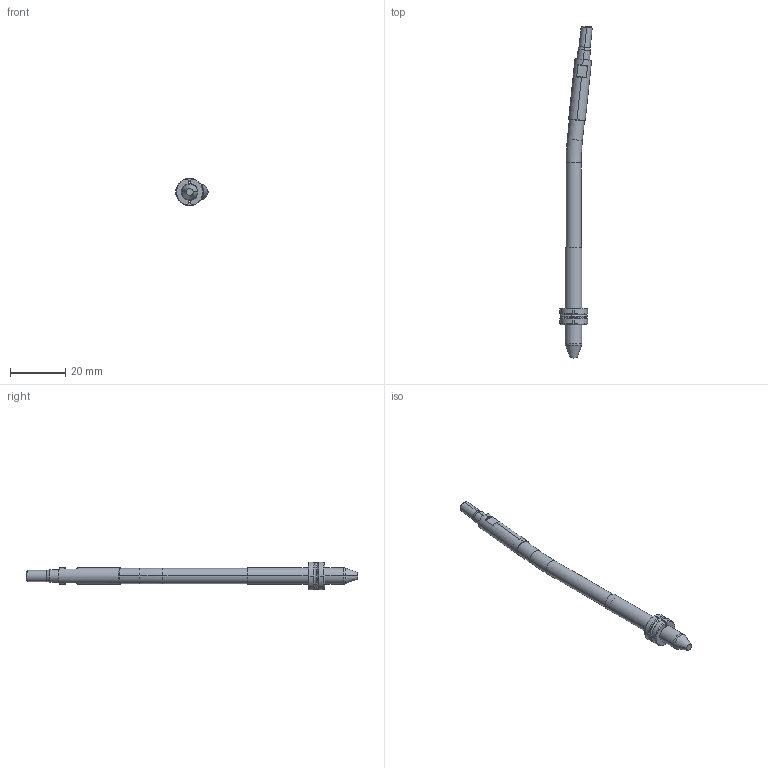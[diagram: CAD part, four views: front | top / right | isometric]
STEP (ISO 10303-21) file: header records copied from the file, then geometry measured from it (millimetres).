
FILE_DESCRIPTION (( 'STEP AP214' ), '1' );
FILE_NAME ('WP060030-INJ 6°.STEP', '2021-03-19T15:11:45', ( '' ), ( '' ), 'SwSTEP 2.0', 'SolidWorks 2019', '' );
FILE_SCHEMA (( 'AUTOMOTIVE_DESIGN' ));
Length unit declared in the file: millimetre
Products named in the file (6): WEB-007-9WP060030-F_WP060030-F-OFF 6ø; WEB-008-JUNTA-JT7X1X9; WP060030-INJ 6°; WEB-002-9WP060030-2; WEB-006-9WP060030-6; WEB-001-9WP060030-1
Assembly tree (5 placements, depth 2):
  WP060030-INJ 6°
    WEB-001-9WP060030-1
    WEB-007-9WP060030-F_WP060030-F-OFF 6ø
    WEB-002-9WP060030-2
    WEB-006-9WP060030-6
    WEB-008-JUNTA-JT7X1X9
Bounding box: 11.69 x 119.74 x 9.99 mm (x, y, z)
Volume: 3174.1 mm3; surface area: 2920.7 mm2
Topology: 6 solids, 6 shells, 112 faces, 260 edges, 162 vertices
Faces by surface type: cylinder 36, cone 28, plane 28, torus 20
Entity records: 3703 total; most frequent: CARTESIAN_POINT 710, DIRECTION 594, ORIENTED_EDGE 520, EDGE_CURVE 260, AXIS2_PLACEMENT_3D 254, VERTEX_POINT 162, CIRCLE 134, EDGE_LOOP 116
